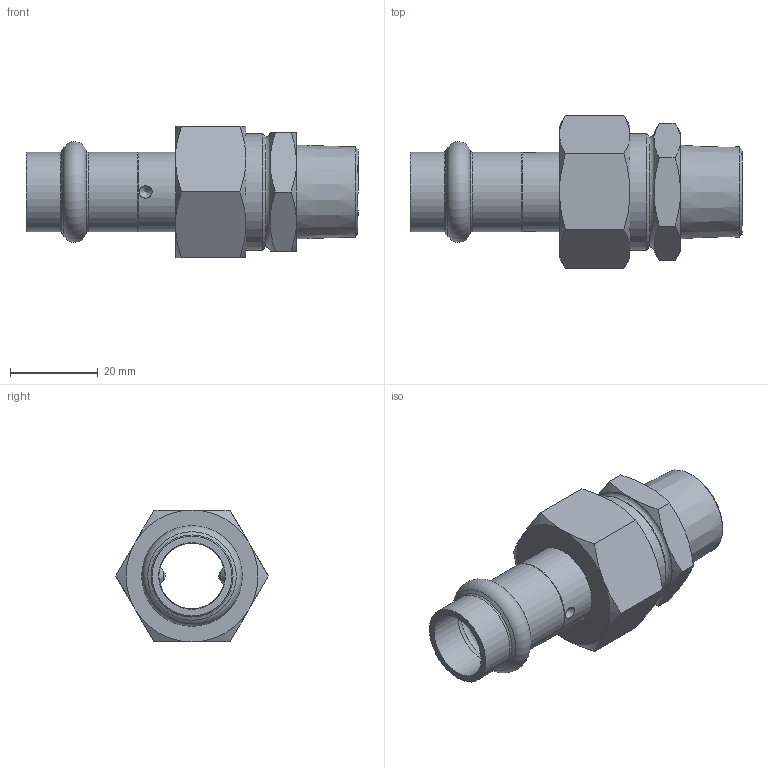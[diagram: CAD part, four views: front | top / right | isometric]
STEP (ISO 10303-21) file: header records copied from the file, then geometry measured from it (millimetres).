
FILE_DESCRIPTION((''),'2;1');
FILE_NAME('G:\Nirosan-Schmiedefeld\Technics\CAD\Bauteile VA\015\69333G1512(3).stp','2011-09-20T13:44:34',('herberg'),(''),'Autodesk Inventor 2009','Autodesk Inventor 2009','');
FILE_SCHEMA(('AUTOMOTIVE_DESIGN { 1 0 10303 214 1 1 1 1 }'));
Length unit declared in the file: millimetre
Products named in the file (7): 69333G1512(3); 69359mms1534(1); HM_692431815(0); R1834(0); MS_SM1534(2); FD_2417_EPDM(0); 69376G3412(1)
Assembly tree (6 placements, depth 3):
  69333G1512(3)
    69359mms1534(1)
      HM_692431815(0)
      R1834(0)
      MS_SM1534(2)
      FD_2417_EPDM(0)
    69376G3412(1)
Bounding box: 75.5 x 34.64 x 30 mm (x, y, z)
Volume: 17996.3 mm3; surface area: 14735.5 mm2
Topology: 5 solids, 5 shells, 90 faces, 194 edges, 116 vertices
Faces by surface type: cone 38, plane 24, cylinder 12, bspline 12, sphere 2, torus 2
Full cylindrical faces by diameter (mm): 15 x2, 15.15 x2, 17 x1, 18 x2, 18.15 x2, 23 x1, 24 x1, 26.441 x1
Entity records: 2811 total; most frequent: CARTESIAN_POINT 1032, DIRECTION 340, ORIENTED_EDGE 282, AXIS2_PLACEMENT_3D 164, EDGE_LOOP 142, EDGE_CURVE 141, VERTEX_POINT 103, FACE_OUTER_BOUND 90
